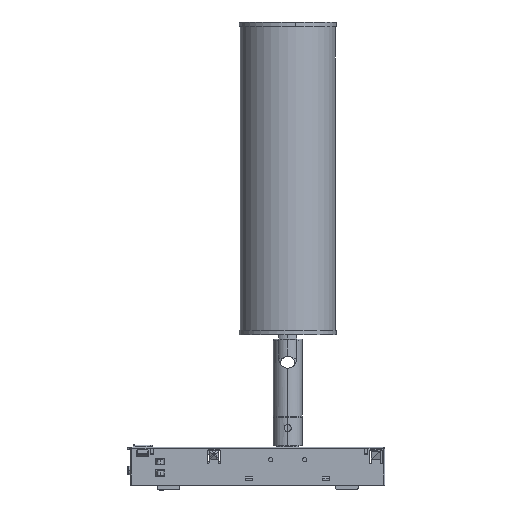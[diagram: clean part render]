
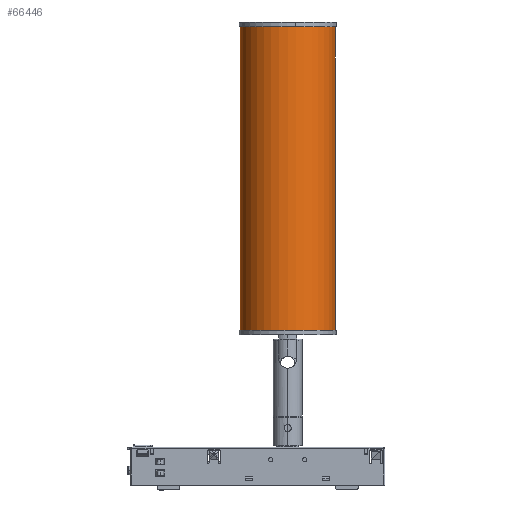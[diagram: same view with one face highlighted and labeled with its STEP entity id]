
A CAD part, top view. The second image highlights one B-rep face of the part: STEP entity #66446.
In plain terms, the highlighted cylindrical face has radius 21.45 mm (diameter 42.9 mm), a partial arc.
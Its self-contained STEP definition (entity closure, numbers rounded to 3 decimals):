
#4268 = CARTESIAN_POINT ( 'NONE',  ( -2.714, 212.959, 80. ) ) ;
#4784 = VECTOR ( 'NONE', #34754, 1000. ) ;
#9267 = DIRECTION ( 'NONE',  ( 0., 1., 0. ) ) ;
#13581 = DIRECTION ( 'NONE',  ( 0., -1., 0. ) ) ;
#16125 = CARTESIAN_POINT ( 'NONE',  ( -24.164, 76.459, 80. ) ) ;
#21404 = CYLINDRICAL_SURFACE ( 'NONE', #93793, 21.45 ) ;
#27421 = FACE_OUTER_BOUND ( 'NONE', #85840, .T. ) ;
#34570 = EDGE_CURVE ( 'NONE', #59412, #48573, #75243, .T. ) ;
#34754 = DIRECTION ( 'NONE',  ( 0., 1., 0. ) ) ;
#37190 = ORIENTED_EDGE ( 'NONE', *, *, #73017, .T. ) ;
#41747 = DIRECTION ( 'NONE',  ( 0., 1., 0. ) ) ;
#46609 = VERTEX_POINT ( 'NONE', #67666 ) ;
#47923 = CARTESIAN_POINT ( 'NONE',  ( -2.714, 76.459, 80. ) ) ;
#48573 = VERTEX_POINT ( 'NONE', #86777 ) ;
#49585 = AXIS2_PLACEMENT_3D ( 'NONE', #4268, #13581, #85203 ) ;
#55138 = EDGE_CURVE ( 'NONE', #85673, #46609, #81819, .T. ) ;
#57662 = DIRECTION ( 'NONE',  ( 1., 0., 0. ) ) ;
#59412 = VERTEX_POINT ( 'NONE', #96507 ) ;
#61850 = CARTESIAN_POINT ( 'NONE',  ( 18.736, 76.459, 80. ) ) ;
#66446 = ADVANCED_FACE ( 'NONE', ( #27421 ), #21404, .T. ) ;
#67666 = CARTESIAN_POINT ( 'NONE',  ( -24.164, 76.459, 80. ) ) ;
#68855 = LINE ( 'NONE', #16125, #4784 ) ;
#73017 = EDGE_CURVE ( 'NONE', #85673, #59412, #110753, .T. ) ;
#75243 = CIRCLE ( 'NONE', #49585, 21.45 ) ;
#75885 = AXIS2_PLACEMENT_3D ( 'NONE', #111298, #110922, #57662 ) ;
#81170 = CARTESIAN_POINT ( 'NONE',  ( 18.736, 76.459, 80. ) ) ;
#81819 = CIRCLE ( 'NONE', #75885, 21.45 ) ;
#85203 = DIRECTION ( 'NONE',  ( 1., 0., 0. ) ) ;
#85673 = VERTEX_POINT ( 'NONE', #81170 ) ;
#85840 = EDGE_LOOP ( 'NONE', ( #108723, #37190, #105853, #95097 ) ) ;
#86777 = CARTESIAN_POINT ( 'NONE',  ( -24.164, 212.959, 80. ) ) ;
#93793 = AXIS2_PLACEMENT_3D ( 'NONE', #47923, #41747, #104388 ) ;
#95097 = ORIENTED_EDGE ( 'NONE', *, *, #96980, .F. ) ;
#95519 = VECTOR ( 'NONE', #9267, 1000. ) ;
#96507 = CARTESIAN_POINT ( 'NONE',  ( 18.736, 212.959, 80. ) ) ;
#96980 = EDGE_CURVE ( 'NONE', #46609, #48573, #68855, .T. ) ;
#104388 = DIRECTION ( 'NONE',  ( -1., 0., 0. ) ) ;
#105853 = ORIENTED_EDGE ( 'NONE', *, *, #34570, .T. ) ;
#108723 = ORIENTED_EDGE ( 'NONE', *, *, #55138, .F. ) ;
#110753 = LINE ( 'NONE', #61850, #95519 ) ;
#110922 = DIRECTION ( 'NONE',  ( 0., -1., 0. ) ) ;
#111298 = CARTESIAN_POINT ( 'NONE',  ( -2.714, 76.459, 80. ) ) ;
